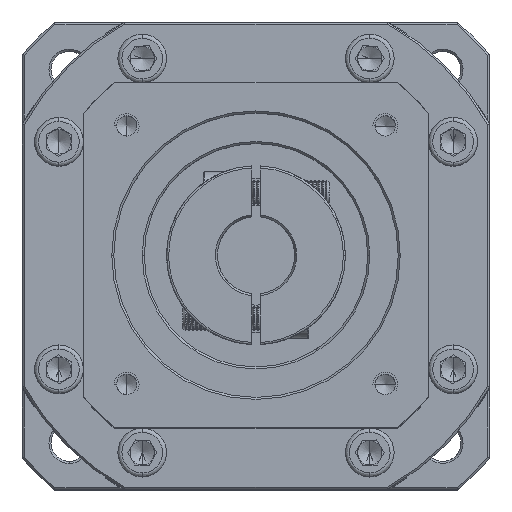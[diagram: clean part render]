
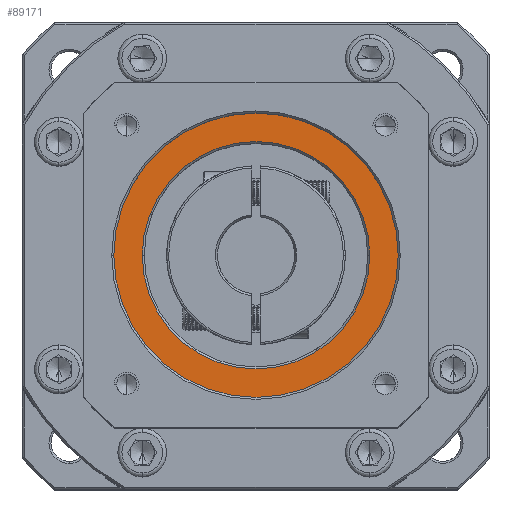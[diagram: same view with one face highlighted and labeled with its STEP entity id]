
A CAD part, top view. The second image highlights one B-rep face of the part: STEP entity #89171.
In plain terms, the highlighted planar face has unit normal (0, 0, 1).
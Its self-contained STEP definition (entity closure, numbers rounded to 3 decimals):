
#88 = AXIS2_PLACEMENT_3D ( 'NONE', #52775, #117568, #62163 ) ;
#1785 = DIRECTION ( 'NONE',  ( 0., 0., 1. ) ) ;
#4503 = ORIENTED_EDGE ( 'NONE', *, *, #100843, .T. ) ;
#7251 = EDGE_LOOP ( 'NONE', ( #4503, #59905 ) ) ;
#7825 = ORIENTED_EDGE ( 'NONE', *, *, #34034, .T. ) ;
#12888 = EDGE_CURVE ( 'NONE', #39127, #15047, #46241, .T. ) ;
#15047 = VERTEX_POINT ( 'NONE', #97389 ) ;
#20044 = DIRECTION ( 'NONE',  ( 0., 0., 1. ) ) ;
#26588 = DIRECTION ( 'NONE',  ( 0., 0., 1. ) ) ;
#32782 = AXIS2_PLACEMENT_3D ( 'NONE', #82116, #26588, #91433 ) ;
#34034 = EDGE_CURVE ( 'NONE', #84839, #102044, #67484, .T. ) ;
#39127 = VERTEX_POINT ( 'NONE', #54512 ) ;
#39975 = ORIENTED_EDGE ( 'NONE', *, *, #66678, .T. ) ;
#39989 = FACE_BOUND ( 'NONE', #7251, .T. ) ;
#46241 = CIRCLE ( 'NONE', #100977, 28. ) ;
#48365 = DIRECTION ( 'NONE',  ( 0., 0., -1. ) ) ;
#52775 = CARTESIAN_POINT ( 'NONE',  ( -77.267, 37.701, -1.595 ) ) ;
#54512 = CARTESIAN_POINT ( 'NONE',  ( -105.267, 37.701, -1.595 ) ) ;
#57424 = CARTESIAN_POINT ( 'NONE',  ( -77.267, 37.701, -1.595 ) ) ;
#59831 = EDGE_LOOP ( 'NONE', ( #7825, #39975 ) ) ;
#59905 = ORIENTED_EDGE ( 'NONE', *, *, #12888, .T. ) ;
#62163 = DIRECTION ( 'NONE',  ( 1., 0., 0. ) ) ;
#65000 = CIRCLE ( 'NONE', #106240, 35. ) ;
#66678 = EDGE_CURVE ( 'NONE', #102044, #84839, #65000, .T. ) ;
#66758 = DIRECTION ( 'NONE',  ( 1., 0., 0. ) ) ;
#67484 = CIRCLE ( 'NONE', #90709, 35. ) ;
#69764 = CIRCLE ( 'NONE', #88, 28. ) ;
#75632 = CARTESIAN_POINT ( 'NONE',  ( -77.267, 37.701, -1.595 ) ) ;
#78269 = CARTESIAN_POINT ( 'NONE',  ( -42.267, 37.701, -1.595 ) ) ;
#82116 = CARTESIAN_POINT ( 'NONE',  ( -77.267, 37.701, -1.595 ) ) ;
#84839 = VERTEX_POINT ( 'NONE', #78269 ) ;
#84941 = DIRECTION ( 'NONE',  ( 1., 0., 0. ) ) ;
#89171 = ADVANCED_FACE ( 'NONE', ( #89295, #39989 ), #100325, .T. ) ;
#89295 = FACE_OUTER_BOUND ( 'NONE', #59831, .T. ) ;
#90709 = AXIS2_PLACEMENT_3D ( 'NONE', #75632, #20044, #84941 ) ;
#91433 = DIRECTION ( 'NONE',  ( 1., 0., 0. ) ) ;
#97389 = CARTESIAN_POINT ( 'NONE',  ( -49.267, 37.701, -1.595 ) ) ;
#100325 = PLANE ( 'NONE',  #32782 ) ;
#100843 = EDGE_CURVE ( 'NONE', #15047, #39127, #69764, .T. ) ;
#100977 = AXIS2_PLACEMENT_3D ( 'NONE', #103805, #48365, #113118 ) ;
#102044 = VERTEX_POINT ( 'NONE', #111976 ) ;
#103805 = CARTESIAN_POINT ( 'NONE',  ( -77.267, 37.701, -1.595 ) ) ;
#106240 = AXIS2_PLACEMENT_3D ( 'NONE', #57424, #1785, #66758 ) ;
#111976 = CARTESIAN_POINT ( 'NONE',  ( -112.267, 37.701, -1.595 ) ) ;
#113118 = DIRECTION ( 'NONE',  ( 1., 0., 0. ) ) ;
#117568 = DIRECTION ( 'NONE',  ( 0., 0., -1. ) ) ;
